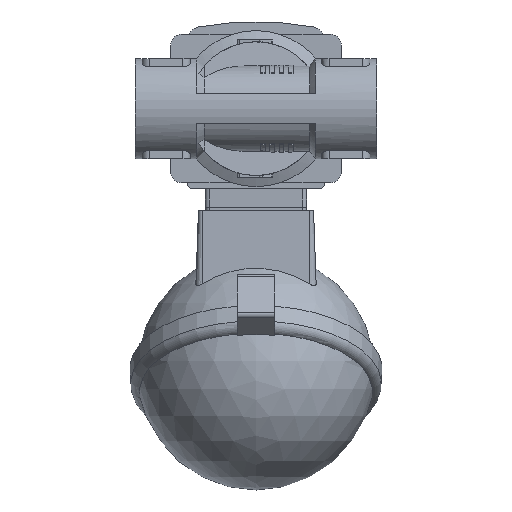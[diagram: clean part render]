
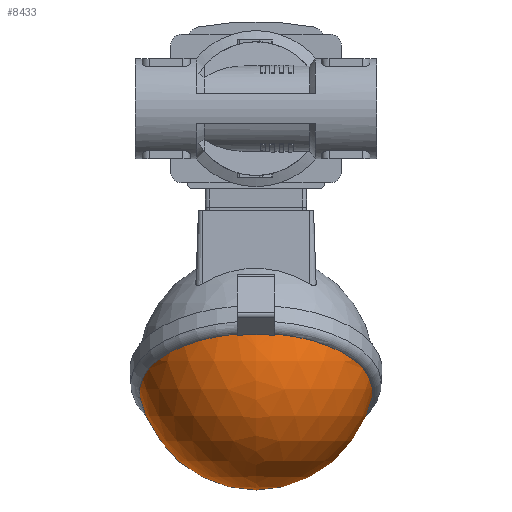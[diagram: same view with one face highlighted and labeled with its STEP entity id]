
A CAD part, front view. The second image highlights one B-rep face of the part: STEP entity #8433.
In plain terms, the highlighted spherical face has radius 32 mm.
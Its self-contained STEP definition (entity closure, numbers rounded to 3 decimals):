
#20=SPHERICAL_SURFACE('',#9098,32.);
#2766=ORIENTED_EDGE('',*,*,#4112,.F.);
#2767=ORIENTED_EDGE('',*,*,#4113,.T.);
#2768=ORIENTED_EDGE('',*,*,#4114,.T.);
#2769=ORIENTED_EDGE('',*,*,#4115,.F.);
#2770=ORIENTED_EDGE('',*,*,#4116,.F.);
#2771=ORIENTED_EDGE('',*,*,#4117,.F.);
#2772=ORIENTED_EDGE('',*,*,#4118,.T.);
#2773=ORIENTED_EDGE('',*,*,#4119,.T.);
#4112=EDGE_CURVE('',#4883,#4884,#5281,.F.);
#4113=EDGE_CURVE('',#4883,#4885,#5282,.F.);
#4114=EDGE_CURVE('',#4885,#4886,#5283,.F.);
#4115=EDGE_CURVE('',#4887,#4886,#5284,.F.);
#4116=EDGE_CURVE('',#4888,#4887,#5285,.F.);
#4117=EDGE_CURVE('',#4889,#4888,#5286,.F.);
#4118=EDGE_CURVE('',#4889,#4890,#5287,.F.);
#4119=EDGE_CURVE('',#4890,#4884,#5288,.F.);
#4883=VERTEX_POINT('',#13151);
#4884=VERTEX_POINT('',#13152);
#4885=VERTEX_POINT('',#13154);
#4886=VERTEX_POINT('',#13156);
#4887=VERTEX_POINT('',#13158);
#4888=VERTEX_POINT('',#13160);
#4889=VERTEX_POINT('',#13162);
#4890=VERTEX_POINT('',#13164);
#5281=CIRCLE('',#9099,31.368);
#5282=CIRCLE('',#9100,31.607);
#5283=CIRCLE('',#9101,31.291);
#5284=CIRCLE('',#9102,31.607);
#5285=CIRCLE('',#9103,31.368);
#5286=CIRCLE('',#9104,30.708);
#5287=CIRCLE('',#9105,30.984);
#5288=CIRCLE('',#9106,30.708);
#5690=EDGE_LOOP('',(#2766,#2767,#2768,#2769,#2770,#2771,#2772,#2773));
#6150=FACE_BOUND('',#5690,.T.);
#8433=ADVANCED_FACE('',(#6150),#20,.T.);
#9098=AXIS2_PLACEMENT_3D('',#13149,#10755,#10756);
#9099=AXIS2_PLACEMENT_3D('',#13150,#10757,#10758);
#9100=AXIS2_PLACEMENT_3D('',#13153,#10759,#10760);
#9101=AXIS2_PLACEMENT_3D('',#13155,#10761,#10762);
#9102=AXIS2_PLACEMENT_3D('',#13157,#10763,#10764);
#9103=AXIS2_PLACEMENT_3D('',#13159,#10765,#10766);
#9104=AXIS2_PLACEMENT_3D('',#13161,#10767,#10768);
#9105=AXIS2_PLACEMENT_3D('',#13163,#10769,#10770);
#9106=AXIS2_PLACEMENT_3D('',#13165,#10771,#10772);
#10755=DIRECTION('',(1.,0.,0.));
#10756=DIRECTION('',(0.,-1.,0.));
#10757=DIRECTION('',(-0.866,-0.5,0.));
#10758=DIRECTION('',(0.5,-0.866,0.));
#10759=DIRECTION('',(0.,0.,1.));
#10760=DIRECTION('',(1.,0.,0.));
#10761=DIRECTION('',(0.866,0.5,0.));
#10762=DIRECTION('',(-0.5,0.866,0.));
#10763=DIRECTION('',(0.,0.,1.));
#10764=DIRECTION('',(1.,0.,0.));
#10765=DIRECTION('',(-0.866,-0.5,0.));
#10766=DIRECTION('',(0.5,-0.866,0.));
#10767=DIRECTION('',(0.,0.,1.));
#10768=DIRECTION('',(1.,0.,0.));
#10769=DIRECTION('',(0.866,0.5,0.));
#10770=DIRECTION('',(-0.5,0.866,0.));
#10771=DIRECTION('',(0.,0.,1.));
#10772=DIRECTION('',(1.,0.,0.));
#13149=CARTESIAN_POINT('',(-70.7,0.,0.));
#13150=CARTESIAN_POINT('',(-76.183,-3.165,0.));
#13151=CARTESIAN_POINT('',(-60.699,-29.983,-5.));
#13152=CARTESIAN_POINT('',(-91.207,22.858,-9.));
#13153=CARTESIAN_POINT('',(-70.7,0.,-5.));
#13154=CARTESIAN_POINT('',(-61.058,-30.1,-5.));
#13155=CARTESIAN_POINT('',(-76.502,-3.35,0.));
#13156=CARTESIAN_POINT('',(-61.058,-30.1,5.));
#13157=CARTESIAN_POINT('',(-70.7,0.,5.));
#13158=CARTESIAN_POINT('',(-60.699,-29.983,5.));
#13159=CARTESIAN_POINT('',(-76.183,-3.165,0.));
#13160=CARTESIAN_POINT('',(-91.207,22.858,9.));
#13161=CARTESIAN_POINT('',(-70.7,0.,9.));
#13162=CARTESIAN_POINT('',(-92.452,21.676,9.));
#13163=CARTESIAN_POINT('',(-77.628,-4.,0.));
#13164=CARTESIAN_POINT('',(-92.452,21.676,-9.));
#13165=CARTESIAN_POINT('',(-70.7,0.,-9.));
